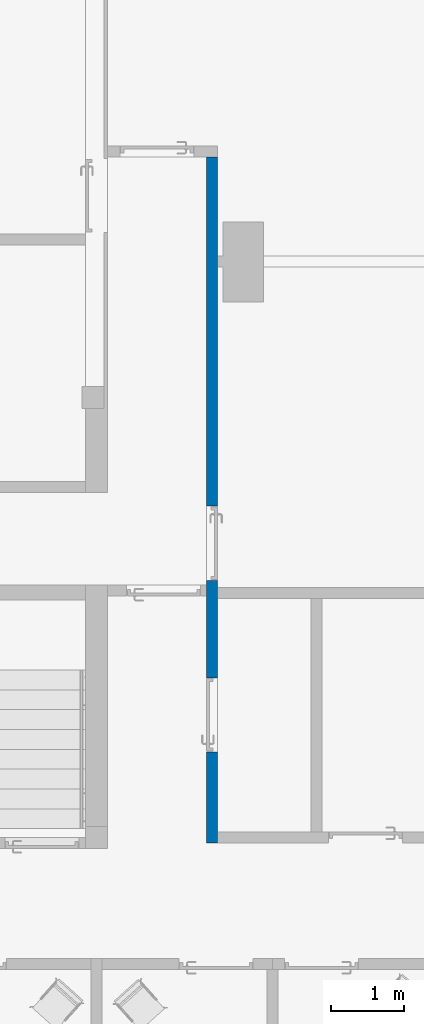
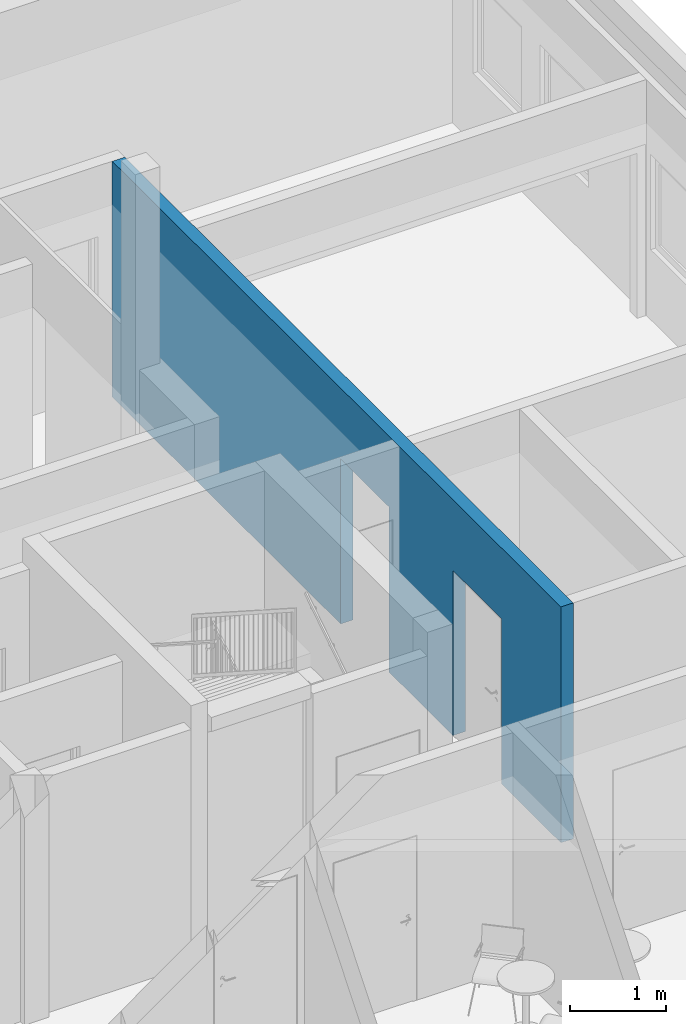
# One storey, part 33 of 58: 1 wall, 3 openings.
"""IFC2X3 building model written with IfcOpenShell, lengths in millimetres."""

from ifc_helpers import new_model, entity, si_unit, converted_unit, derived_unit, direction, frame, frame_2d, origin, place, context, subcontext, project, spatial, rectangle, extrude, material, layer, layer_set, layer_usage, type_object, element, save


model = new_model("IFC2X3")

# Units and contexts
model_context = context("Model", 3, precision=0.01, world=origin(), true_north=direction((0.7716245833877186, 0.6360782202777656)))
body_context = subcontext(model_context, "Body", "Model", "MODEL_VIEW")
ifc_project = project(units=[si_unit("LENGTHUNIT", "METRE", prefix="MILLI"), si_unit("AREAUNIT", "SQUARE_METRE"), converted_unit("PLANEANGLEUNIT", "DEGREE", entity("IfcPlaneAngleMeasure", 0.017453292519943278), si_unit("PLANEANGLEUNIT", "RADIAN"), dimensions=[0, 0, 0, 0, 0, 0, 0]), derived_unit("THERMALTRANSMITTANCEUNIT", [(si_unit("MASSUNIT", "GRAM", prefix="KILO"), 1), (si_unit("THERMODYNAMICTEMPERATUREUNIT", "KELVIN"), -1), (si_unit("TIMEUNIT", "SECOND"), -3)])], contexts=[model_context])

# Site, building, storey
site_placement = place(None, origin())
site = spatial("IfcSite", under=ifc_project, at=site_placement, Name="Default", CompositionType="ELEMENT")
building_placement = place(site_placement, origin())
building = spatial("IfcBuilding", under=site, at=building_placement, CompositionType="ELEMENT")
storey_placement = place(building_placement, frame((0.0, 0.0, 31140.0)))
storey = spatial("IfcBuildingStorey", under=building, at=storey_placement, Name="PLAN U1", CompositionType="ELEMENT", Elevation=31140.000000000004)

# Wall, openings
ifc_material = material(Name="Eksist. vegg")
ifc_layer = layer(ifc_material, 150.0)
ifc_layer_set = layer_set([ifc_layer], Name="Basic Wall:240 Eksist. Innervegg 150 mm")
ifc_layer_usage = layer_usage(ifc_layer_set, "AXIS2", "NEGATIVE", 75.0)
wall_type = type_object("IfcWallType", Name="Basic Wall:240 Eksist. Innervegg 150 mm", PredefinedType="STANDARD", material=ifc_layer_set)
wall_placement = place(storey_placement, frame((272342.924446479, 68590.25555007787, 0.0), z_axis=(0.0, 0.0, 1.0), x_axis=(0.0, -1.0, 0.0)))
wall = element("IfcWallStandardCase", 1, at=wall_placement, inside=storey, type_object=wall_type, material=ifc_layer_usage, Name="Basic Wall:240 Eksist. Innervegg 150 mm", ObjectType="Basic Wall:240 Eksist. Innervegg 150 mm", context=body_context, shape_type="SweptSolid", body=[
    extrude(rectangle(XDim=9350.000000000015, YDim=150.00000000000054, at=frame_2d((4675.000000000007, 0.0), x_axis=(-1.0, 0.0))), origin(), (0.0, 0.0, 1.0), 2999.9999999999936),
])
opening_1_placement = place(wall_placement, origin())
element("IfcOpeningElement", 2, at=opening_1_placement, cuts=wall, Name="Basic Wall:240 Eksist. Innervegg 150 mm", ObjectType="Opening", context=body_context, shape_type="SweptSolid", body=[
    extrude(rectangle(XDim=2180.9999999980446, YDim=150.00000000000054, at=frame_2d((0.0, 2.1600499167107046e-12), x_axis=(0.0, 1.0))), frame((1421.8324428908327, 75.0, 1090.4999999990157), z_axis=(0.0, 1.0, 0.0), x_axis=(-1.0, 0.0, 0.0)), (0.0, 0.0, 1.0), 5400.00000000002),
])
opening_2_placement = place(wall_placement, frame((8110.0, 75.0, 0.0)))
element("IfcOpeningElement", 3, at=opening_2_placement, cuts=wall, Name="Enfløyet:2441 Innvendig 10x21M:1", ObjectType="Opening", context=body_context, shape_type="SweptSolid", body=[
    extrude(rectangle(XDim=2100.0, YDim=1009.9999999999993, at=frame_2d((1049.9999999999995, 504.99999999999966), x_axis=(1.0, 0.0))), frame((0.0, 0.0, 0.0), z_axis=(0.0, -1.0, 0.0), x_axis=(0.0, 0.0, 1.0)), (0.0, 0.0, 1.0), 150.0),
])
opening_3_placement = place(wall_placement, frame((4759.532478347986, -75.0, 0.0)))
element("IfcOpeningElement", 4, at=opening_3_placement, cuts=wall, Name="Enfløyet:2441 Innvendig 10x21M:1", ObjectType="Opening", context=body_context, shape_type="SweptSolid", body=[
    extrude(rectangle(XDim=2100.0, YDim=1009.9999999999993, at=frame_2d((1049.9999999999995, 504.99999999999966), x_axis=(1.0, 0.0))), frame((0.0, 0.0, 0.0), z_axis=(0.0, 1.0, 0.0), x_axis=(0.0, 0.0, 1.0)), (0.0, 0.0, 1.0), 150.0),
])

save(model, "model.ifc")
